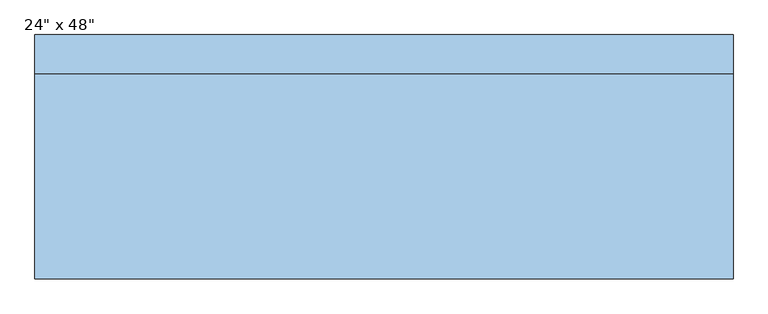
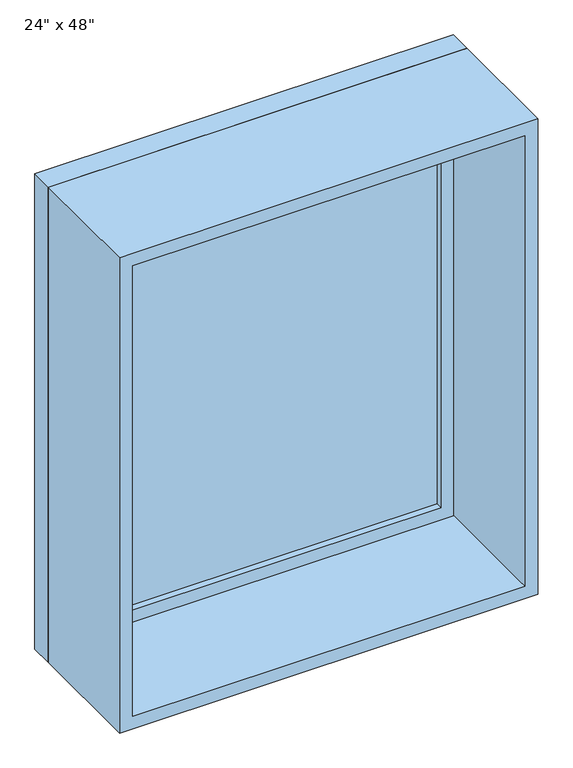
"""IFC4 building model written with IfcOpenShell, lengths in millimetres: window geometry."""

from ifc_helpers import new_model, si_unit, frame, origin, place, context, project, spatial, polyline, outline, extrude, source, transform, mapped, element, save


def window_c6188165(model_context):
    return source(origin(), model_context, "Body", "SweptSolid", [
        extrude(outline(polyline([(2114.6, -489.0), (933.4, -489.0), (933.4, 489.0), (2114.6, 489.0), (2114.6, -489.0)]), holes=[polyline([(2070.6, -445.0), (2070.6, 445.0), (977.4, 445.0), (977.4, -445.0), (2070.6, -445.0)])]), frame((0.0, 134.1, 0.0), z_axis=(0.0, 1.0, 0.0), x_axis=(0.0, 0.0, 1.0)), (0.0, 0.0, 1.0), 44.0),
        extrude(outline(polyline([(2133.6, -508.0), (914.4, -508.0), (914.4, 508.0), (2133.6, 508.0), (2133.6, -508.0)]), holes=[polyline([(2114.6, -489.0), (2114.6, 489.0), (933.4, 489.0), (933.4, -489.0), (2114.6, -489.0)])]), frame((0.0, 134.1, 0.0), z_axis=(0.0, 1.0, 0.0), x_axis=(0.0, 0.0, 1.0)), (0.0, 0.0, 1.0), 56.7),
        extrude(outline(polyline([(2133.6, -508.0), (914.4, -508.0), (914.4, 508.0), (2133.6, 508.0), (2133.6, -508.0)]), holes=[polyline([(2101.6, -476.0), (2101.6, 476.0), (946.4, 476.0), (946.4, -476.0), (2101.6, -476.0)])]), frame((0.0, -164.8, 0.0), z_axis=(0.0, 1.0, 0.0), x_axis=(0.0, 0.0, 1.0)), (0.0, 0.0, 1.0), 298.9),
        extrude(outline(polyline([(-445.0, 162.1), (445.0, 162.1), (445.0, 150.1), (-445.0, 150.1), (-445.0, 162.1)])), frame((0.0, 0.0, 977.4), z_axis=(0.0, 0.0, 1.0), x_axis=(1.0, 0.0, 0.0)), (0.0, 0.0, 1.0), 1093.2),
    ])


if __name__ == "__main__":
    model = new_model("IFC4")
    model_context = context("Model", 3, world=origin())
    ifc_project = project(units=[si_unit("LENGTHUNIT", "METRE", prefix="MILLI")], contexts=[model_context])
    site = spatial("IfcSite", under=ifc_project)
    building = spatial("IfcBuilding", under=site)
    placement = place(None, origin())
    window_shape = window_c6188165(model_context)
    element("IfcWindow", 1, ObjectType="Planitar-Fixed : 24\" x 48\"", at=placement, inside=building, context=model_context, shape_type="MappedRepresentation", body=[
        mapped(window_shape, transform((0.0, 0.0, 0.0), x_axis=(1.0, 0.0, 0.0), y_axis=(0.0, 1.0, 0.0), z_axis=(0.0, 0.0, 1.0))),
    ])
    save(model, "model.ifc")
